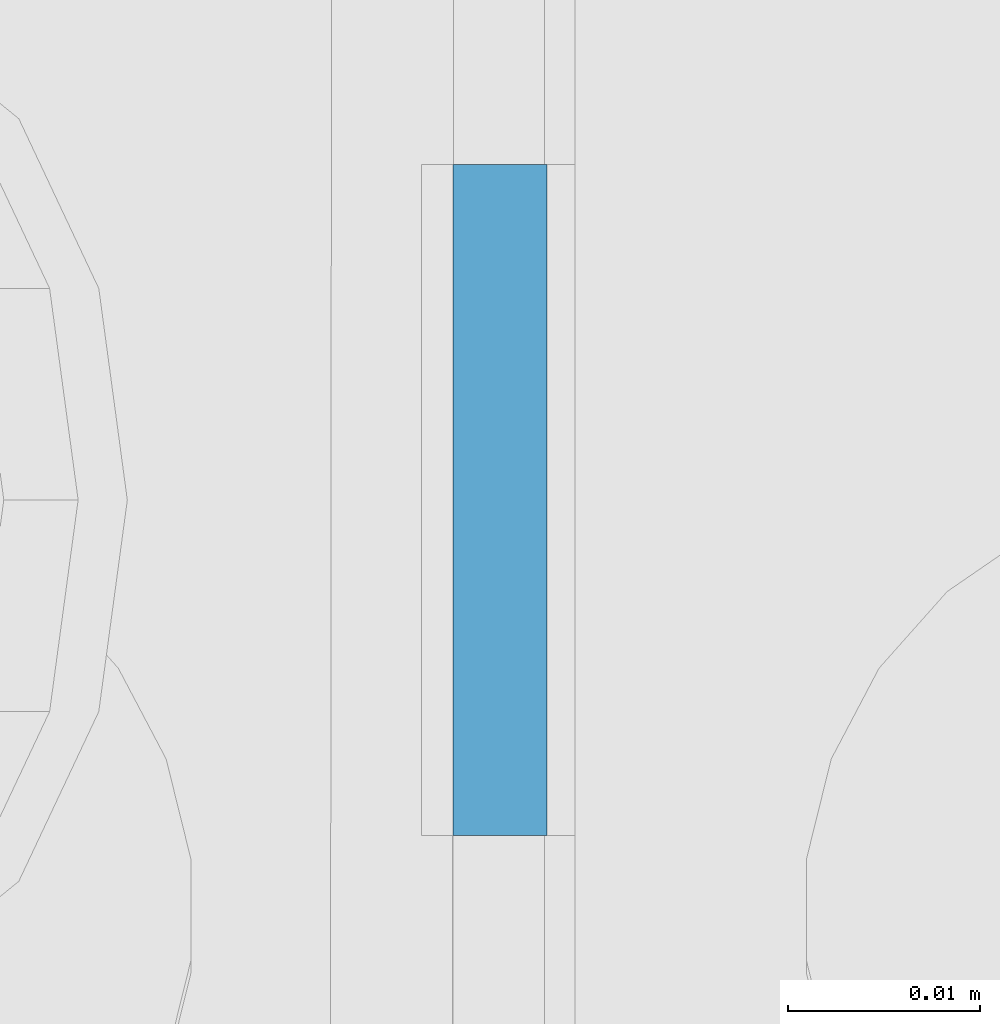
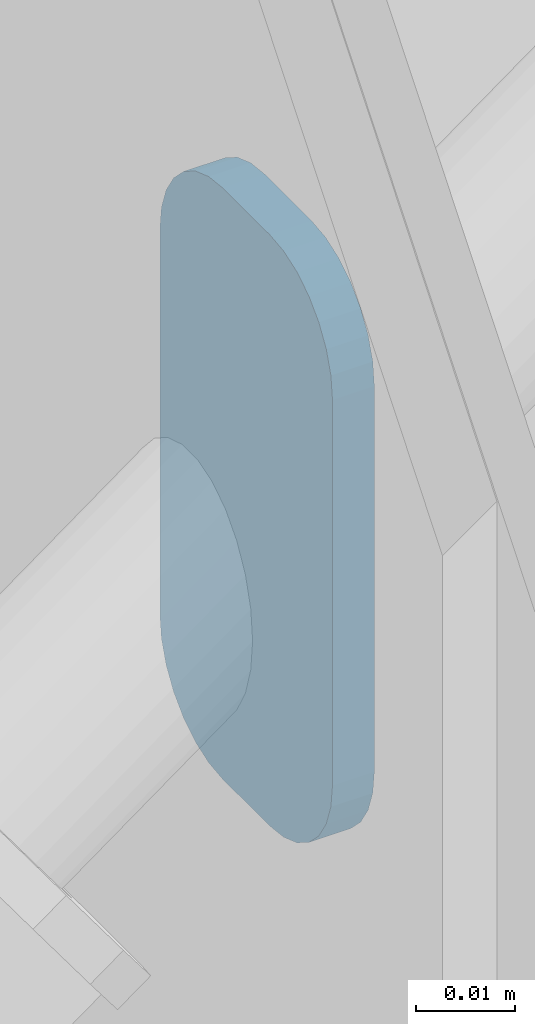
# One storey, part 164 of 185: 1 mechanical fastener, 1 element without a shape of its own.
"""IFC2X3 building model written with IfcOpenShell, lengths in millimetres."""

from ifc_helpers import new_model, si_unit, frame, frame_2d, origin_with_axes, place, context, subcontext, project, spatial, polyline, circle_curve, parameter, trimmed, segment, composite_curve, outline, extrude, source, transform, mapped, material, type_object, element, aggregate, save


model = new_model("IFC2X3")

# Units and contexts
model_context = context("Model", 3, precision=1e-05, world=origin_with_axes())
body_context = subcontext(model_context, "Body", "Model", "MODEL_VIEW")
ifc_project = project(units=[si_unit("LENGTHUNIT", "METRE", prefix="MILLI"), si_unit("AREAUNIT", "SQUARE_METRE"), si_unit("VOLUMEUNIT", "CUBIC_METRE"), si_unit("MASSUNIT", "GRAM", prefix="KILO"), si_unit("TIMEUNIT", "SECOND"), si_unit("PLANEANGLEUNIT", "RADIAN"), si_unit("SOLIDANGLEUNIT", "STERADIAN"), si_unit("THERMODYNAMICTEMPERATUREUNIT", "DEGREE_CELSIUS"), si_unit("LUMINOUSINTENSITYUNIT", "LUMEN")], contexts=[model_context])

# Site, building, storey
site_placement = place(None, origin_with_axes())
site = spatial("IfcSite", under=ifc_project, at=site_placement, Name="Undefined", CompositionType="ELEMENT")
building_placement = place(site_placement, origin_with_axes())
building = spatial("IfcBuilding", under=site, at=building_placement, Name="Undefined", CompositionType="ELEMENT")
storey_placement = place(building_placement, origin_with_axes())
storey = spatial("IfcBuildingStorey", under=building, at=storey_placement, Name="Undefined", CompositionType="ELEMENT", Elevation=0.0)

# Assembly, mechanical fastener
assembly_placement = place(storey_placement, origin_with_axes())
assembly = element("IfcElementAssembly", 1, at=assembly_placement, inside=storey, Name="Steel Assembly", AssemblyPlace="NOTDEFINED", PredefinedType="RIGID_FRAME")
ifc_material = material(Name="Undefined")
discrete_accessory_type = type_object("IfcDiscreteAccessoryType", Name="Bolt assembly")
shared_shape = source(origin_with_axes(), body_context, "Body", "SweptSolid", [
    extrude(outline(composite_curve([segment(polyline([(-23.8125, 17.4624996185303), (23.8125, 17.4624996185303)]), True, "CONTINUOUS"), segment(trimmed(circle_curve(frame_2d((23.8125, 4.76249980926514), x_axis=(0.0, 1.0)), 12.7), [parameter(0.0)], [parameter(4.71238898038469)], False, "PARAMETER"), True, "CONTINUOUS"), segment(polyline([(36.5124998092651, 4.76249980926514), (36.5124998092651, -4.76249980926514)]), True, "CONTINUOUS"), segment(trimmed(circle_curve(frame_2d((23.8125, -4.76249980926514), x_axis=(1.0, 0.0)), 12.7), [parameter(0.0)], [parameter(4.71238898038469)], False, "PARAMETER"), True, "CONTINUOUS"), segment(polyline([(23.8125, -17.4624996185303), (-23.8125, -17.4624996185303)]), True, "CONTINUOUS"), segment(trimmed(circle_curve(frame_2d((-23.8125, -4.76249980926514), x_axis=(0.0, -1.0)), 12.7), [parameter(0.0)], [parameter(4.71238898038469)], False, "PARAMETER"), True, "CONTINUOUS"), segment(polyline([(-36.5124998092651, -4.76249980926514), (-36.5124998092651, 4.76249980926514)]), True, "CONTINUOUS"), segment(trimmed(circle_curve(frame_2d((-23.8125, 4.76249980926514), x_axis=(-1.0, 0.0)), 12.7), [parameter(0.0)], [parameter(4.71238898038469)], False, "PARAMETER"), True, "DISCONTINUOUS")], self_intersect=False)), frame((0.0, -2.38125000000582, 0.0), z_axis=(0.0, 1.0, 0.0), x_axis=(1.0, 0.0, 0.0)), (0.0, 0.0, 1.0), 4.9),
])
mechanical_fastener_placement = place(assembly_placement, frame((30099.0, 31742.1260000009, 168.12968356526), z_axis=(0.0, 1.0, 0.0), x_axis=(0.0, 0.0, 1.0)))
mechanical_fastener = element("IfcMechanicalFastener", 2, at=mechanical_fastener_placement, type_object=discrete_accessory_type, material=ifc_material, Name="Bolt assembly", NominalDiameter=25.3999996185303, NominalLength=31.75, context=body_context, shape_type="MappedRepresentation", body=[
    mapped(shared_shape, transform((0.0, 0.0, 0.0))),
])
aggregate(assembly, [mechanical_fastener])

save(model, "model.ifc")
